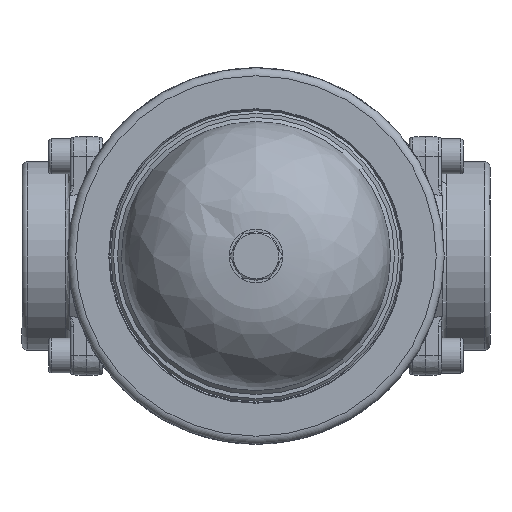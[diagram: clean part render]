
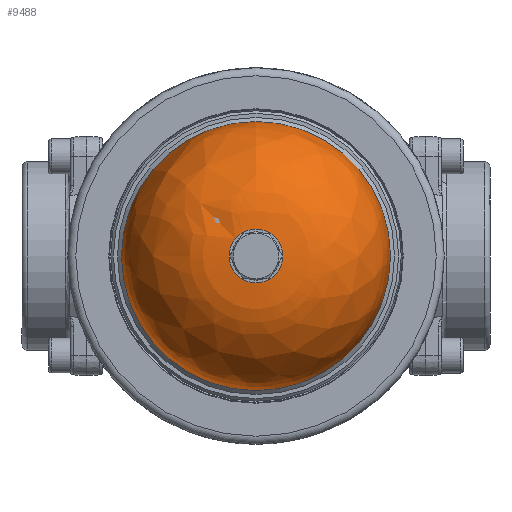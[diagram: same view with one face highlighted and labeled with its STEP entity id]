
A CAD part, front view. The second image highlights one B-rep face of the part: STEP entity #9488.
In plain terms, the highlighted free-form (B-spline) face has degree [2, 2] with [3, 9] control points.
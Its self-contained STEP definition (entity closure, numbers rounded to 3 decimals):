
#146=(
BOUNDED_SURFACE()
B_SPLINE_SURFACE(2,2,((#16894,#16895,#16896,#16897,#16898,#16899,#16900,
#16901,#16902),(#16903,#16904,#16905,#16906,#16907,#16908,#16909,#16910,
#16911),(#16912,#16913,#16914,#16915,#16916,#16917,#16918,#16919,#16920)),
 .UNSPECIFIED.,.F.,.T.,.F.)
B_SPLINE_SURFACE_WITH_KNOTS((3,3),(3,2,2,2,3),(-1.571,0.),
(-3.142,-1.571,0.,1.571,3.142),
 .UNSPECIFIED.)
GEOMETRIC_REPRESENTATION_ITEM()
RATIONAL_B_SPLINE_SURFACE(((1.,0.707,1.,0.707,1.,
0.707,1.,0.707,1.),(0.707,0.5,
0.707,0.5,0.707,0.5,
0.707,0.5,0.707),(1.,0.707,
1.,0.707,1.,0.707,1.,0.707,1.)))
REPRESENTATION_ITEM('')
SURFACE()
);
#2469=FACE_OUTER_BOUND('',#3122,.T.);
#3122=EDGE_LOOP('',(#7860,#7861,#7862,#7863,#7864));
#3768=CIRCLE('',#10659,10.);
#3769=CIRCLE('',#10660,40.);
#3770=CIRCLE('',#10661,50.);
#3771=CIRCLE('',#10662,50.);
#4553=VERTEX_POINT('',#16892);
#4554=VERTEX_POINT('',#16921);
#4555=VERTEX_POINT('',#16923);
#5705=EDGE_CURVE('',#4553,#4553,#3768,.T.);
#5706=EDGE_CURVE('',#4553,#4554,#3769,.T.);
#5707=EDGE_CURVE('',#4555,#4554,#3770,.T.);
#5708=EDGE_CURVE('',#4554,#4555,#3771,.T.);
#7860=ORIENTED_EDGE('',*,*,#5705,.T.);
#7861=ORIENTED_EDGE('',*,*,#5706,.T.);
#7862=ORIENTED_EDGE('',*,*,#5707,.F.);
#7863=ORIENTED_EDGE('',*,*,#5708,.F.);
#7864=ORIENTED_EDGE('',*,*,#5706,.F.);
#9488=ADVANCED_FACE('',(#2469),#146,.F.);
#10659=AXIS2_PLACEMENT_3D('',#16893,#12914,#12915);
#10660=AXIS2_PLACEMENT_3D('',#16922,#12916,#12917);
#10661=AXIS2_PLACEMENT_3D('',#16924,#12918,#12919);
#10662=AXIS2_PLACEMENT_3D('',#16925,#12920,#12921);
#12914=DIRECTION('center_axis',(0.,1.,0.));
#12915=DIRECTION('ref_axis',(-1.,0.,0.));
#12916=DIRECTION('center_axis',(1.,0.,0.));
#12917=DIRECTION('ref_axis',(0.,0.,
-1.));
#12918=DIRECTION('center_axis',(0.,1.,0.));
#12919=DIRECTION('ref_axis',(-1.,0.,0.));
#12920=DIRECTION('center_axis',(0.,1.,0.));
#12921=DIRECTION('ref_axis',(-1.,0.,0.));
#16892=CARTESIAN_POINT('',(0.,0.5,-10.));
#16893=CARTESIAN_POINT('Origin',(0.,0.5,
0.));
#16894=CARTESIAN_POINT('Ctrl Pts',(0.,0.5,
-10.));
#16895=CARTESIAN_POINT('Ctrl Pts',(-10.,0.5,
-10.));
#16896=CARTESIAN_POINT('Ctrl Pts',(-10.,0.5,
0.));
#16897=CARTESIAN_POINT('Ctrl Pts',(-10.,0.5,
10.));
#16898=CARTESIAN_POINT('Ctrl Pts',(0.,0.5,
10.));
#16899=CARTESIAN_POINT('Ctrl Pts',(10.,0.5,10.));
#16900=CARTESIAN_POINT('Ctrl Pts',(10.,0.5,0.));
#16901=CARTESIAN_POINT('Ctrl Pts',(10.,0.5,-10.));
#16902=CARTESIAN_POINT('Ctrl Pts',(0.,0.5,
-10.));
#16903=CARTESIAN_POINT('Ctrl Pts',(0.,0.5,
-50.));
#16904=CARTESIAN_POINT('Ctrl Pts',(-50.,0.5,
-50.));
#16905=CARTESIAN_POINT('Ctrl Pts',(-50.,0.5,
0.));
#16906=CARTESIAN_POINT('Ctrl Pts',(-50.,0.5,
50.));
#16907=CARTESIAN_POINT('Ctrl Pts',(0.,0.5,
50.));
#16908=CARTESIAN_POINT('Ctrl Pts',(50.,0.5,50.));
#16909=CARTESIAN_POINT('Ctrl Pts',(50.,0.5,0.));
#16910=CARTESIAN_POINT('Ctrl Pts',(50.,0.5,-50.));
#16911=CARTESIAN_POINT('Ctrl Pts',(0.,0.5,
-50.));
#16912=CARTESIAN_POINT('Ctrl Pts',(0.,40.5,
-50.));
#16913=CARTESIAN_POINT('Ctrl Pts',(-50.,40.5,-50.));
#16914=CARTESIAN_POINT('Ctrl Pts',(-50.,40.5,0.));
#16915=CARTESIAN_POINT('Ctrl Pts',(-50.,40.5,50.));
#16916=CARTESIAN_POINT('Ctrl Pts',(0.,40.5,
50.));
#16917=CARTESIAN_POINT('Ctrl Pts',(50.,40.5,50.));
#16918=CARTESIAN_POINT('Ctrl Pts',(50.,40.5,0.));
#16919=CARTESIAN_POINT('Ctrl Pts',(50.,40.5,-50.));
#16920=CARTESIAN_POINT('Ctrl Pts',(0.,40.5,
-50.));
#16921=CARTESIAN_POINT('',(0.,40.5,-50.));
#16922=CARTESIAN_POINT('Origin',(0.,40.5,
-10.));
#16923=CARTESIAN_POINT('',(50.,40.5,0.));
#16924=CARTESIAN_POINT('Origin',(0.,40.5,
0.));
#16925=CARTESIAN_POINT('Origin',(0.,40.5,
0.));
